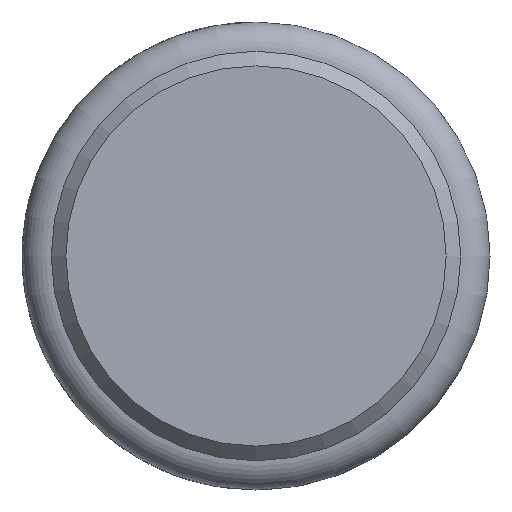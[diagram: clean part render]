
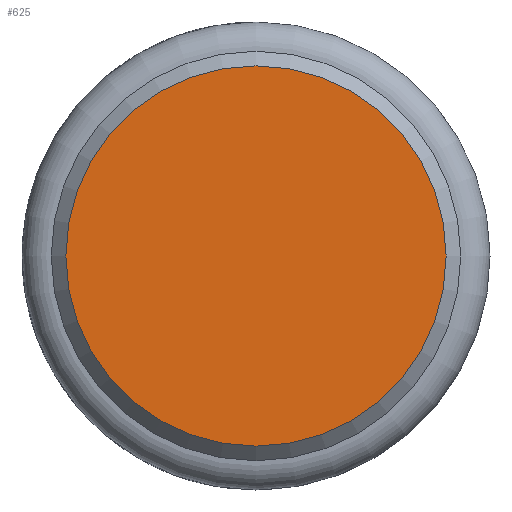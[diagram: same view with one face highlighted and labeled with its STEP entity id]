
A CAD part, left-side view. The second image highlights one B-rep face of the part: STEP entity #625.
In plain terms, the highlighted planar face has unit normal (-1, 0, 0).
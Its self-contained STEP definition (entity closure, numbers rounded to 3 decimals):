
#56 = ORIENTED_EDGE ( 'NONE', *, *, #408, .T. ) ;
#73 = EDGE_LOOP ( 'NONE', ( #56 ) ) ;
#271 = CARTESIAN_POINT ( 'NONE',  ( 0., 0., 0. ) ) ;
#351 = CARTESIAN_POINT ( 'NONE',  ( 0., 0., -8. ) ) ;
#408 = EDGE_CURVE ( 'NONE', #1329, #1329, #476, .T. ) ;
#476 = CIRCLE ( 'NONE', #1026, 6.5 ) ;
#506 = CARTESIAN_POINT ( 'NONE',  ( 0., 0., -6.5 ) ) ;
#528 = DIRECTION ( 'NONE',  ( 0., 0., -1. ) ) ;
#597 = DIRECTION ( 'NONE',  ( 1., 0., 0. ) ) ;
#625 = ADVANCED_FACE ( 'NONE', ( #1650 ), #1661, .F. ) ;
#971 = DIRECTION ( 'NONE',  ( 0., 0., -1. ) ) ;
#1026 = AXIS2_PLACEMENT_3D ( 'NONE', #271, #1304, #528 ) ;
#1297 = AXIS2_PLACEMENT_3D ( 'NONE', #351, #597, #971 ) ;
#1304 = DIRECTION ( 'NONE',  ( -1., 0., 0. ) ) ;
#1329 = VERTEX_POINT ( 'NONE', #506 ) ;
#1650 = FACE_OUTER_BOUND ( 'NONE', #73, .T. ) ;
#1661 = PLANE ( 'NONE',  #1297 ) ;
